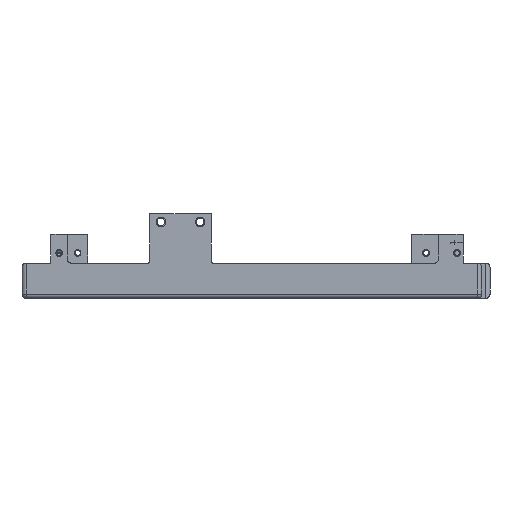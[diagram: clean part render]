
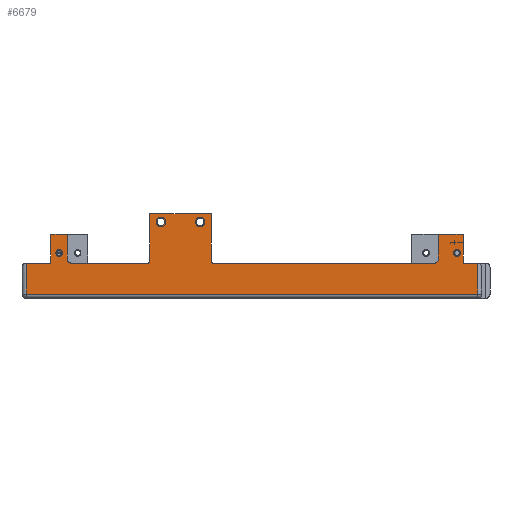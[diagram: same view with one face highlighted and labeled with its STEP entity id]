
A CAD part, left-side view. The second image highlights one B-rep face of the part: STEP entity #6679.
In plain terms, the highlighted planar face has unit normal (-1, 0, 0).
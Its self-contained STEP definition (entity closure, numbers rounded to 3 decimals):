
#1446=DIRECTION('',(0.,-1.,0.));
#1447=VECTOR('',#1446,3.5);
#1448=CARTESIAN_POINT('',(-50.,-50.25,8.5));
#1449=LINE('',#1448,#1447);
#1454=DIRECTION('',(0.,-1.,0.));
#1455=VECTOR('',#1454,18.5);
#1456=CARTESIAN_POINT('',(-50.,44.75,8.5));
#1457=LINE('',#1456,#1455);
#1478=DIRECTION('',(0.,-1.,0.));
#1479=VECTOR('',#1478,6.);
#1480=CARTESIAN_POINT('',(-50.,55.75,8.5));
#1481=LINE('',#1480,#1479);
#1526=DIRECTION('',(0.,-1.,0.));
#1527=VECTOR('',#1526,53.6);
#1528=CARTESIAN_POINT('',(-50.,10.35,8.5));
#1529=LINE('',#1528,#1527);
#1771=CARTESIAN_POINT('',(-50.,47.75,11.));
#1772=DIRECTION('',(-1.,0.,0.));
#1773=DIRECTION('',(0.,1.,0.));
#1774=AXIS2_PLACEMENT_3D('',#1771,#1772,#1773);
#1776=CARTESIAN_POINT('',(-50.,47.75,11.));
#1777=DIRECTION('',(-1.,0.,0.));
#1778=DIRECTION('',(0.,-1.,0.));
#1779=AXIS2_PLACEMENT_3D('',#1776,#1777,#1778);
#1781=CARTESIAN_POINT('',(-50.,-48.75,11.));
#1782=DIRECTION('',(-1.,0.,0.));
#1783=DIRECTION('',(0.,1.,0.));
#1784=AXIS2_PLACEMENT_3D('',#1781,#1782,#1783);
#1786=CARTESIAN_POINT('',(-50.,-48.75,11.));
#1787=DIRECTION('',(-1.,0.,0.));
#1788=DIRECTION('',(0.,-1.,0.));
#1789=AXIS2_PLACEMENT_3D('',#1786,#1787,#1788);
#1791=CARTESIAN_POINT('',(-50.,23.05,18.5));
#1792=DIRECTION('',(-1.,0.,0.));
#1793=DIRECTION('',(0.,1.,0.));
#1794=AXIS2_PLACEMENT_3D('',#1791,#1792,#1793);
#1796=CARTESIAN_POINT('',(-50.,23.05,18.5));
#1797=DIRECTION('',(-1.,0.,0.));
#1798=DIRECTION('',(0.,-1.,0.));
#1799=AXIS2_PLACEMENT_3D('',#1796,#1797,#1798);
#1801=CARTESIAN_POINT('',(-50.,13.55,18.5));
#1802=DIRECTION('',(-1.,0.,0.));
#1803=DIRECTION('',(0.,1.,0.));
#1804=AXIS2_PLACEMENT_3D('',#1801,#1802,#1803);
#1806=CARTESIAN_POINT('',(-50.,13.55,18.5));
#1807=DIRECTION('',(-1.,0.,0.));
#1808=DIRECTION('',(0.,-1.,0.));
#1809=AXIS2_PLACEMENT_3D('',#1806,#1807,#1808);
#1811=DIRECTION('',(0.,0.,1.));
#1812=VECTOR('',#1811,6.);
#1813=CARTESIAN_POINT('',(-50.,-44.25,9.5));
#1814=LINE('',#1813,#1812);
#1815=DIRECTION('',(0.,0.,1.));
#1816=VECTOR('',#1815,7.5);
#1817=CARTESIAN_POINT('',(-50.,-53.75,1.));
#1818=LINE('',#1817,#1816);
#1819=DIRECTION('',(0.,-1.,0.));
#1820=VECTOR('',#1819,109.5);
#1821=CARTESIAN_POINT('',(-50.,55.75,1.));
#1822=LINE('',#1821,#1820);
#1823=DIRECTION('',(0.,0.,-1.));
#1824=VECTOR('',#1823,7.5);
#1825=CARTESIAN_POINT('',(-50.,55.75,8.5));
#1826=LINE('',#1825,#1824);
#1827=DIRECTION('',(0.,0.,1.));
#1828=VECTOR('',#1827,7.);
#1829=CARTESIAN_POINT('',(-50.,49.75,8.5));
#1830=LINE('',#1829,#1828);
#2014=DIRECTION('',(0.,-1.,0.));
#2015=VECTOR('',#2014,4.);
#2016=CARTESIAN_POINT('',(-50.,49.75,15.5));
#2017=LINE('',#2016,#2015);
#2106=DIRECTION('',(0.,-1.,0.));
#2107=VECTOR('',#2106,6.);
#2108=CARTESIAN_POINT('',(-50.,-44.25,15.5));
#2109=LINE('',#2108,#2107);
#2185=CARTESIAN_POINT('',(-50.,44.75,9.5));
#2186=DIRECTION('',(1.,0.,0.));
#2187=DIRECTION('',(0.,0.,-1.));
#2188=AXIS2_PLACEMENT_3D('',#2185,#2186,#2187);
#2194=DIRECTION('',(0.,0.,1.));
#2195=VECTOR('',#2194,6.);
#2196=CARTESIAN_POINT('',(-50.,45.75,9.5));
#2197=LINE('',#2196,#2195);
#2938=CARTESIAN_POINT('',(-50.,-43.25,9.5));
#2939=DIRECTION('',(1.,0.,0.));
#2940=DIRECTION('',(0.,-1.,0.));
#2941=AXIS2_PLACEMENT_3D('',#2938,#2939,#2940);
#3328=DIRECTION('',(0.,0.,1.));
#3329=VECTOR('',#3328,7.);
#3330=CARTESIAN_POINT('',(-50.,-50.25,8.5));
#3331=LINE('',#3330,#3329);
#3378=DIRECTION('',(0.,0.,1.));
#3379=VECTOR('',#3378,11.5);
#3380=CARTESIAN_POINT('',(-50.,10.85,9.));
#3381=LINE('',#3380,#3379);
#3382=CARTESIAN_POINT('',(-50.,10.35,9.));
#3383=DIRECTION('',(1.,0.,0.));
#3384=DIRECTION('',(0.,0.,-1.));
#3385=AXIS2_PLACEMENT_3D('',#3382,#3383,#3384);
#3392=DIRECTION('',(0.,-1.,0.));
#3393=VECTOR('',#3392,14.9);
#3394=CARTESIAN_POINT('',(-50.,25.75,20.5));
#3395=LINE('',#3394,#3393);
#3416=DIRECTION('',(0.,0.,-1.));
#3417=VECTOR('',#3416,11.5);
#3418=CARTESIAN_POINT('',(-50.,25.75,20.5));
#3419=LINE('',#3418,#3417);
#3425=CARTESIAN_POINT('',(-50.,26.25,9.));
#3426=DIRECTION('',(1.,0.,0.));
#3427=DIRECTION('',(0.,-1.,0.));
#3428=AXIS2_PLACEMENT_3D('',#3425,#3426,#3427);
#3633=CARTESIAN_POINT('',(-50.,-44.25,15.5));
#3634=VERTEX_POINT('',#3633);
#3635=CARTESIAN_POINT('',(-50.,-50.25,15.5));
#3636=VERTEX_POINT('',#3635);
#3641=CARTESIAN_POINT('',(-50.,49.75,15.5));
#3642=CARTESIAN_POINT('',(-50.,45.75,15.5));
#3643=VERTEX_POINT('',#3641);
#3644=VERTEX_POINT('',#3642);
#3671=CARTESIAN_POINT('',(-50.,49.75,8.5));
#3672=VERTEX_POINT('',#3671);
#3739=CARTESIAN_POINT('',(-50.,48.375,11.));
#3740=VERTEX_POINT('',#3739);
#3741=CARTESIAN_POINT('',(-50.,47.125,11.));
#3742=VERTEX_POINT('',#3741);
#3760=CARTESIAN_POINT('',(-50.,-48.125,11.));
#3762=VERTEX_POINT('',#3760);
#3764=CARTESIAN_POINT('',(-50.,-49.375,11.));
#3766=VERTEX_POINT('',#3764);
#3812=CARTESIAN_POINT('',(-50.,55.75,8.5));
#3814=VERTEX_POINT('',#3812);
#3846=CARTESIAN_POINT('',(-50.,55.75,1.));
#3848=VERTEX_POINT('',#3846);
#3896=CARTESIAN_POINT('',(-50.,-43.25,8.5));
#3898=VERTEX_POINT('',#3896);
#3901=CARTESIAN_POINT('',(-50.,-44.25,9.5));
#3902=VERTEX_POINT('',#3901);
#3907=CARTESIAN_POINT('',(-50.,44.75,8.5));
#3908=VERTEX_POINT('',#3907);
#3909=CARTESIAN_POINT('',(-50.,45.75,9.5));
#3910=VERTEX_POINT('',#3909);
#4317=CARTESIAN_POINT('',(-50.,-53.75,8.5));
#4319=VERTEX_POINT('',#4317);
#4321=CARTESIAN_POINT('',(-50.,-53.75,1.));
#4322=VERTEX_POINT('',#4321);
#4331=CARTESIAN_POINT('',(-50.,-50.25,8.5));
#4332=VERTEX_POINT('',#4331);
#4357=CARTESIAN_POINT('',(-50.,25.75,20.5));
#4358=CARTESIAN_POINT('',(-50.,10.85,20.5));
#4359=VERTEX_POINT('',#4357);
#4360=VERTEX_POINT('',#4358);
#4365=CARTESIAN_POINT('',(-50.,24.,18.5));
#4366=CARTESIAN_POINT('',(-50.,22.1,18.5));
#4367=VERTEX_POINT('',#4365);
#4368=VERTEX_POINT('',#4366);
#4373=CARTESIAN_POINT('',(-50.,14.5,18.5));
#4374=CARTESIAN_POINT('',(-50.,12.6,18.5));
#4375=VERTEX_POINT('',#4373);
#4376=VERTEX_POINT('',#4374);
#4470=CARTESIAN_POINT('',(-50.,26.25,8.5));
#4472=VERTEX_POINT('',#4470);
#4474=CARTESIAN_POINT('',(-50.,25.75,9.));
#4476=VERTEX_POINT('',#4474);
#4477=CARTESIAN_POINT('',(-50.,10.35,8.5));
#4479=VERTEX_POINT('',#4477);
#4481=CARTESIAN_POINT('',(-50.,10.85,9.));
#4483=VERTEX_POINT('',#4481);
#6613=CARTESIAN_POINT('',(-50.,56.75,0.));
#6614=DIRECTION('',(-1.,0.,0.));
#6615=DIRECTION('',(0.,-1.,0.));
#6616=AXIS2_PLACEMENT_3D('',#6613,#6614,#6615);
#6617=PLANE('',#6616);
#6619=ORIENTED_EDGE('',*,*,#6618,.F.);
#6621=ORIENTED_EDGE('',*,*,#6620,.F.);
#6622=ORIENTED_EDGE('',*,*,#6239,.T.);
#6624=ORIENTED_EDGE('',*,*,#6623,.F.);
#6626=ORIENTED_EDGE('',*,*,#6625,.T.);
#6628=ORIENTED_EDGE('',*,*,#6627,.T.);
#6630=ORIENTED_EDGE('',*,*,#6629,.F.);
#6631=ORIENTED_EDGE('',*,*,#6173,.T.);
#6633=ORIENTED_EDGE('',*,*,#6632,.F.);
#6635=ORIENTED_EDGE('',*,*,#6634,.F.);
#6637=ORIENTED_EDGE('',*,*,#6636,.F.);
#6638=ORIENTED_EDGE('',*,*,#6197,.T.);
#6640=ORIENTED_EDGE('',*,*,#6639,.T.);
#6642=ORIENTED_EDGE('',*,*,#6641,.T.);
#6644=ORIENTED_EDGE('',*,*,#6643,.F.);
#6646=ORIENTED_EDGE('',*,*,#6645,.F.);
#6647=ORIENTED_EDGE('',*,*,#6185,.T.);
#6649=ORIENTED_EDGE('',*,*,#6648,.F.);
#6651=ORIENTED_EDGE('',*,*,#6650,.F.);
#6653=ORIENTED_EDGE('',*,*,#6652,.T.);
#6654=EDGE_LOOP('',(#6619,#6621,#6622,#6624,#6626,#6628,#6630,#6631,#6633,#6635,
#6637,#6638,#6640,#6642,#6644,#6646,#6647,#6649,#6651,#6653));
#6655=FACE_OUTER_BOUND('',#6654,.F.);
#6657=ORIENTED_EDGE('',*,*,#6656,.T.);
#6659=ORIENTED_EDGE('',*,*,#6658,.T.);
#6660=EDGE_LOOP('',(#6657,#6659));
#6661=FACE_BOUND('',#6660,.F.);
#6662=ORIENTED_EDGE('',*,*,#6603,.T.);
#6664=ORIENTED_EDGE('',*,*,#6663,.T.);
#6665=EDGE_LOOP('',(#6662,#6664));
#6666=FACE_BOUND('',#6665,.F.);
#6668=ORIENTED_EDGE('',*,*,#6667,.T.);
#6670=ORIENTED_EDGE('',*,*,#6669,.T.);
#6671=EDGE_LOOP('',(#6668,#6670));
#6672=FACE_BOUND('',#6671,.F.);
#6674=ORIENTED_EDGE('',*,*,#6673,.T.);
#6676=ORIENTED_EDGE('',*,*,#6675,.T.);
#6677=EDGE_LOOP('',(#6674,#6676));
#6678=FACE_BOUND('',#6677,.F.);
#6679=ADVANCED_FACE('',(#6655,#6661,#6666,#6672,#6678),#6617,.T.);
#1775=CIRCLE('',#1774,0.625);
#1780=CIRCLE('',#1779,0.625);
#1785=CIRCLE('',#1784,0.625);
#1790=CIRCLE('',#1789,0.625);
#1795=CIRCLE('',#1794,0.95);
#1800=CIRCLE('',#1799,0.95);
#1805=CIRCLE('',#1804,0.95);
#1810=CIRCLE('',#1809,0.95);
#2189=CIRCLE('',#2188,1.);
#2942=CIRCLE('',#2941,1.);
#3386=CIRCLE('',#3385,0.5);
#3429=CIRCLE('',#3428,0.5);
#6173=EDGE_CURVE('',#4332,#4319,#1449,.T.);
#6185=EDGE_CURVE('',#3908,#4472,#1457,.T.);
#6197=EDGE_CURVE('',#3814,#3672,#1481,.T.);
#6239=EDGE_CURVE('',#4479,#3898,#1529,.T.);
#6603=EDGE_CURVE('',#4367,#4368,#1795,.T.);
#6618=EDGE_CURVE('',#4483,#4360,#3381,.T.);
#6620=EDGE_CURVE('',#4479,#4483,#3386,.T.);
#6623=EDGE_CURVE('',#3902,#3898,#2942,.T.);
#6625=EDGE_CURVE('',#3902,#3634,#1814,.T.);
#6627=EDGE_CURVE('',#3634,#3636,#2109,.T.);
#6629=EDGE_CURVE('',#4332,#3636,#3331,.T.);
#6632=EDGE_CURVE('',#4322,#4319,#1818,.T.);
#6634=EDGE_CURVE('',#3848,#4322,#1822,.T.);
#6636=EDGE_CURVE('',#3814,#3848,#1826,.T.);
#6639=EDGE_CURVE('',#3672,#3643,#1830,.T.);
#6641=EDGE_CURVE('',#3643,#3644,#2017,.T.);
#6643=EDGE_CURVE('',#3910,#3644,#2197,.T.);
#6645=EDGE_CURVE('',#3908,#3910,#2189,.T.);
#6648=EDGE_CURVE('',#4476,#4472,#3429,.T.);
#6650=EDGE_CURVE('',#4359,#4476,#3419,.T.);
#6652=EDGE_CURVE('',#4359,#4360,#3395,.T.);
#6656=EDGE_CURVE('',#3762,#3766,#1785,.T.);
#6658=EDGE_CURVE('',#3766,#3762,#1790,.T.);
#6663=EDGE_CURVE('',#4368,#4367,#1800,.T.);
#6667=EDGE_CURVE('',#4375,#4376,#1805,.T.);
#6669=EDGE_CURVE('',#4376,#4375,#1810,.T.);
#6673=EDGE_CURVE('',#3740,#3742,#1775,.T.);
#6675=EDGE_CURVE('',#3742,#3740,#1780,.T.);
